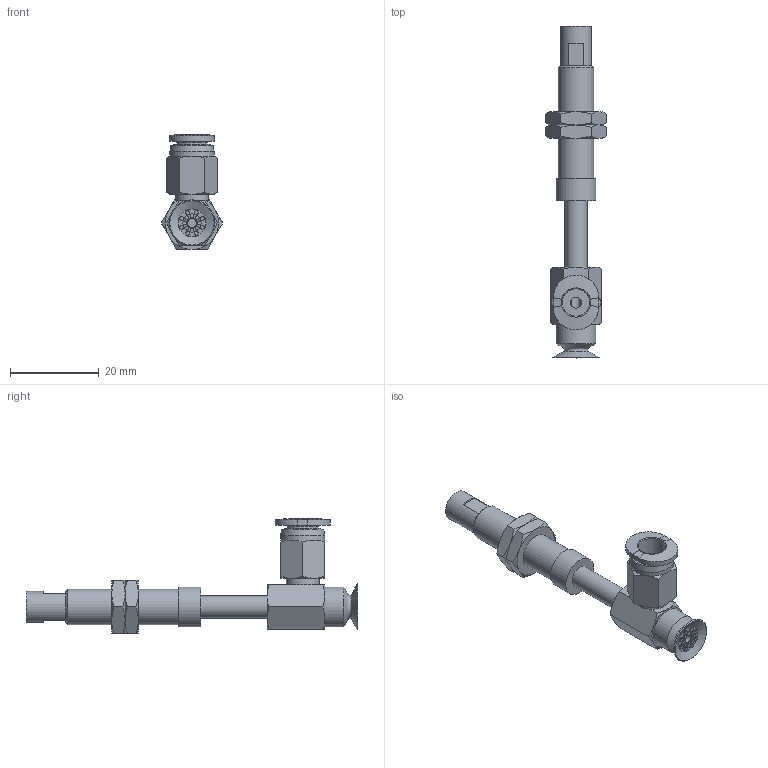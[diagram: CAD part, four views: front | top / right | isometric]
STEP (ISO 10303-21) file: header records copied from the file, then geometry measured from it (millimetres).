
FILE_DESCRIPTION(('STEP AP203'),'1');
FILE_NAME('-O.stp','2025-02-11T06:25:13',(' '),(' '),'Spatial InterOp 3D',' ',' ');
FILE_SCHEMA(('CONFIG_CONTROL_DESIGN'));
Length unit declared in the file: millimetre
Products named in the file (7): BNABPAYS-10A-15-※-O; NAPAYS-10A-15--M; NAPAYS-10A-15--F; Nut-10A-S; CONNECTOR-10A-15-PA; BPAG-10A-※_3D; PC-C_06-M5
Assembly tree (7 placements, depth 2):
  BNABPAYS-10A-15-※-O
    NAPAYS-10A-15--M
    NAPAYS-10A-15--F
    Nut-10A-S  x2
    CONNECTOR-10A-15-PA
    BPAG-10A-※_3D
    PC-C_06-M5
Bounding box: 13.86 x 75 x 25.98 mm (x, y, z)
Volume: 3931.7 mm3; surface area: 5910.4 mm2
Topology: 6 solids, 9 shells, 212 faces, 421 edges, 257 vertices
Faces by surface type: plane 84, cone 67, cylinder 42, torus 12, bspline 4, revolution 3
Full cylindrical faces by diameter (mm): 0.9 x16, 2 x2, 4 x4, 4.134 x2, 5 x4, 6 x2, 7 x2, 7.188 x2, 7.4 x1, 8 x1, 8.2 x1, 9 x2, 10 x1
Entity records: 5260 total; most frequent: CARTESIAN_POINT 1408, DIRECTION 745, ORIENTED_EDGE 586, AXIS2_PLACEMENT_3D 342, EDGE_LOOP 300, EDGE_CURVE 295, VERTEX_POINT 219, FACE_OUTER_BOUND 180
